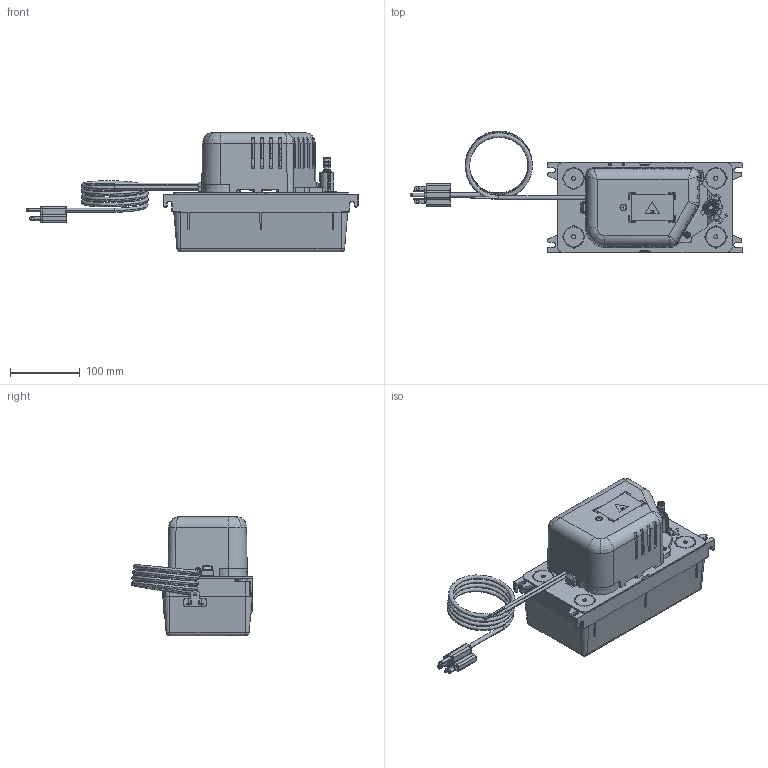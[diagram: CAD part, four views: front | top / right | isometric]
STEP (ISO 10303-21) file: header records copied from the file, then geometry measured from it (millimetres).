
FILE_DESCRIPTION (( 'STEP AP214' ), '1' );
FILE_NAME ('Sauermann_SI1801SCUS23.STEP', '2021-04-26T08:48:57', ( '' ), ( '' ), 'SwSTEP 2.0', 'SolidWorks 2020', '' );
FILE_SCHEMA (( 'AUTOMOTIVE_DESIGN' ));
Length unit declared in the file: millimetre
Products named in the file (1): Sauermann_SI1801SCUS23
Bounding box: 476.3 x 174.81 x 171.5 mm (x, y, z)
Surface area: 359711.2 mm2 (no closed solid volume)
Topology: 0 solids, 63 shells, 1056 faces, 4780 edges, 3637 vertices
Faces by surface type: plane 484, cylinder 324, bspline 136, cone 50, torus 48, sphere 14
Entity records: 72569 total; most frequent: CARTESIAN_POINT 25227, ORIENTED_EDGE 6951, DIRECTION 6779, EDGE_CURVE 4763, VERTEX_POINT 3636, LINE 2565, VECTOR 2565, AXIS2_PLACEMENT_3D 2107
